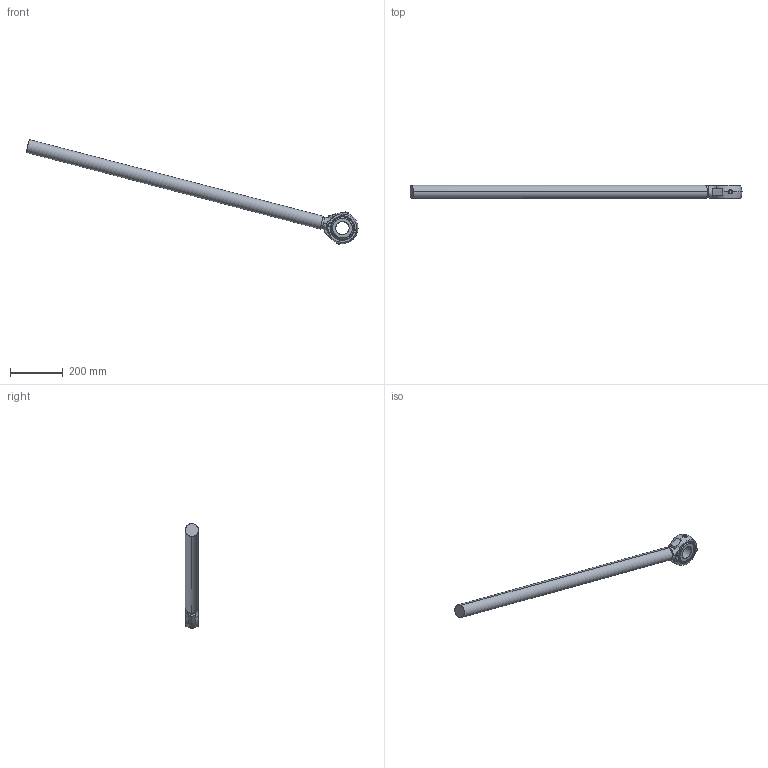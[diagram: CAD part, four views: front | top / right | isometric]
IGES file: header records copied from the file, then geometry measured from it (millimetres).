
Start section: SolidWorks IGES file using analytic representation for surfaces
Global section: file name: C:\DATA\SAP_DOC\LW\IRB 6730S\IRB6730S_210kg-350_OC_01_SW_J\export\IRB6730S_210kg-350_OC_01_IGES_J\IRB6730S_All_OC_00_ROD_CAD.igs; native system: SolidWorks 2024; preprocessor: SolidWorks 2024; author: SEJOVAS3; date: 260526.123416; units: millimetre
Bounding box: 1259.38 x 51.34 x 396.87 mm (x, y, z)
Surface area: 229365.8 mm2 (no closed solid volume)
Topology: 0 solids, 0 shells, 74 faces, 1849 edges, 1847 vertices
Faces by surface type: revolution 39, bspline 35
